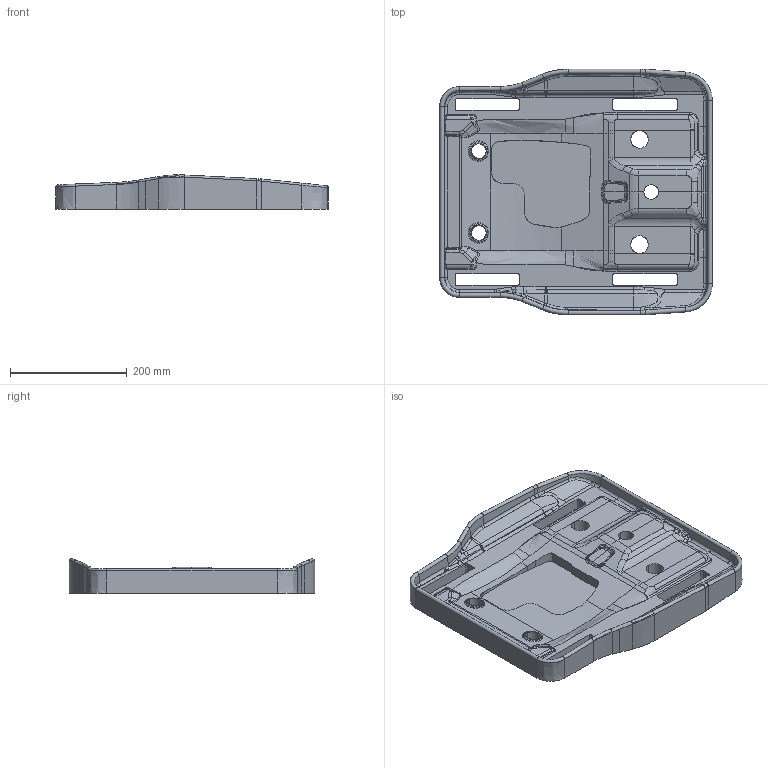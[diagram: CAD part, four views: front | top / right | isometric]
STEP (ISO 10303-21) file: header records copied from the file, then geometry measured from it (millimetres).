
FILE_DESCRIPTION(('CATIA V5 STEP Exchange'),'2;1');
FILE_NAME('D:\Gao Bingchuan\02-重卡\2.0平台\03-座盆\05-新开发座盆 降低H点_20241122\CNC 发泡\SHT0017073_CNC基座.stp','2025-06-12T07:53:04+00:00',('none'),('none'),'CATIA Version 5 Release 20 SP 7 (IN-10)','CATIA V5 STEP AP203 Edition 2','none');
FILE_SCHEMA(('AP203_CONFIGURATION_CONTROLLED_3D_DESIGN_OF_MECHANICAL_PARTS_AND_ASSEMBLIES_MIM_LF { 1 0 10303 403 2 1 2}'));
Products named in the file (1): SHT0017073_ALL NEW-002
Bounding box: 466.06 x 420.57 x 58.75 mm (x, y, z)
Volume: 4098183.8 mm3; surface area: 487689.9 mm2
Topology: 1 solids, 1 shells, 526 faces, 1330 edges, 807 vertices
Faces by surface type: bspline 188, cylinder 153, plane 106, extrusion 39, torus 30, cone 10
Entity records: 46895 total; most frequent: CARTESIAN_POINT 36503, ORIENTED_EDGE 2660, EDGE_CURVE 1330, DIRECTION 1175, VERTEX_POINT 807, B_SPLINE_CURVE_WITH_KNOTS 775, EDGE_LOOP 545, ADVANCED_FACE 526
